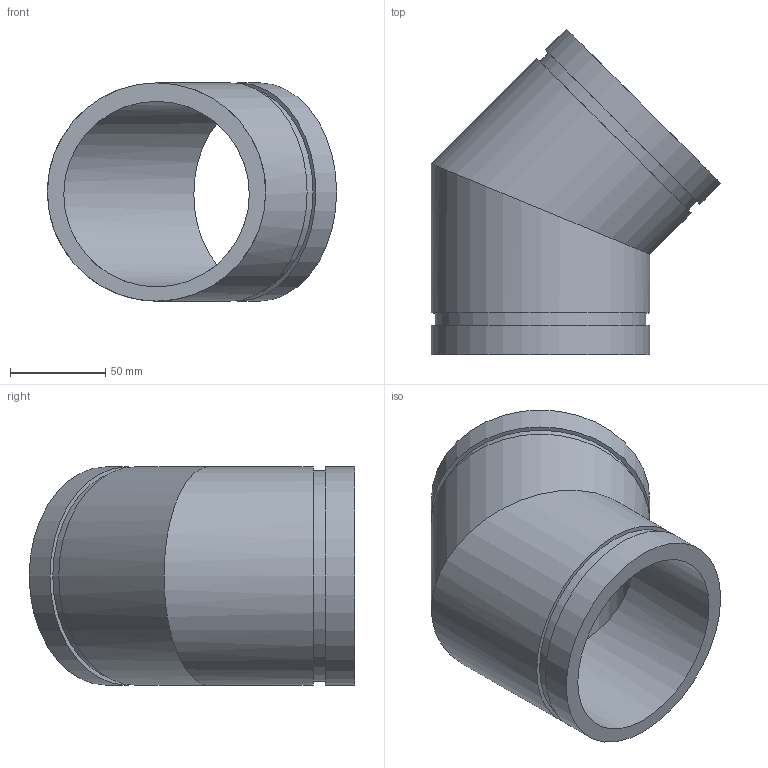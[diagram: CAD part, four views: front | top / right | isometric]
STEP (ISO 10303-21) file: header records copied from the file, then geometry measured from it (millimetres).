
FILE_DESCRIPTION(/* description */ ('VIC 45 DEG. EXTRA HEAVY ELBOW No 63-ES','CAx-IF Rec.Pracs.---Representation and Presentation of Product Manufacturing Information (PMI)---4.0---2014-10-13'),/* implementation_level */ '2;1');
FILE_NAME(/* name */ 'C:\Users\kkamble\AppData\Roaming\Autodesk\ApplicationPlugins\Back Up\Victaulic_IPS-EndSeal_Elbow 45 Deg LR_No 63-ES (ESG)\Victaulic_IPS-EndSeal_Elbow 45 Deg LR_No 63-ES (ESG)_4 (100).stp',/* time_stamp */ '2020-08-04T18:51:33+05:00',/* author */ ('cgray'),/* organization */ ('Victaulic'),/* preprocessor_version */ 'ST-DEVELOPER v17.2',/* originating_system */ 'Autodesk Inventor 2019',/* authorisation */ '');
FILE_SCHEMA (('AP242_MANAGED_MODEL_BASED_3D_ENGINEERING_MIM_LF { 1 0 10303 442 1 1 4 }'));
Length unit declared in the file: inch
Products named in the file (1): 63-ES-04.0
Bounding box: 151.44 x 170.49 x 114.3 mm (x, y, z)
Volume: 423724.2 mm3; surface area: 109740 mm2
Topology: 1 solids, 1 shells, 14 faces, 30 edges, 22 vertices
Faces by surface type: cylinder 8, plane 6
Full cylindrical faces by diameter (mm): 97.18 x2, 110.084 x2, 114.3 x4
Entity records: 554 total; most frequent: DIRECTION 108, CARTESIAN_POINT 84, ORIENTED_EDGE 60, AXIS2_PLACEMENT_3D 50, EDGE_CURVE 30, VERTEX_POINT 22, EDGE_LOOP 20, CIRCLE 16
